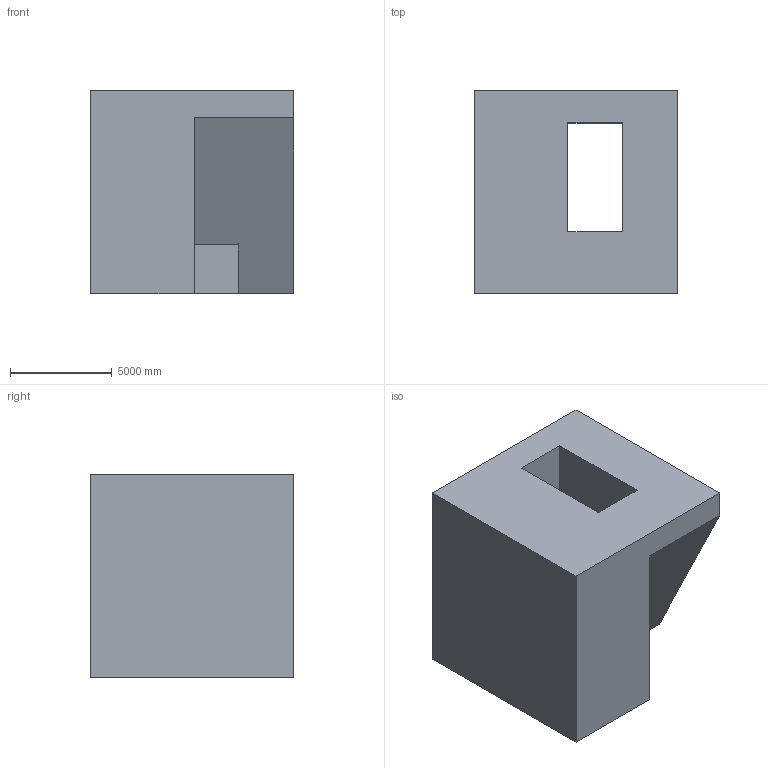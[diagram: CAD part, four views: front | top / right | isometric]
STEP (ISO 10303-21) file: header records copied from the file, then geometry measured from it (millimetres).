
FILE_DESCRIPTION (( 'STEP AP203' ), '1' );
FILE_NAME ('58.STEP', '2022-07-28T13:30:49', ( 'user' ), ( '' ), 'SwSTEP 2.0', 'SolidWorks 2021', '' );
FILE_SCHEMA (( 'CONFIG_CONTROL_DESIGN' ));
Length unit declared in the file: centimetre
Products named in the file (1): 58
Bounding box: 10000 x 10000 x 10000 mm (x, y, z)
Volume: 770280236685.6 mm3; surface area: 705120216.5 mm2
Topology: 1 solids, 1 shells, 12 faces, 33 edges, 22 vertices
Faces by surface type: plane 12
Entity records: 458 total; most frequent: CARTESIAN_POINT 68, ORIENTED_EDGE 66, DIRECTION 59, LINE 33, VECTOR 33, EDGE_CURVE 33, VERTEX_POINT 22, EDGE_LOOP 13
